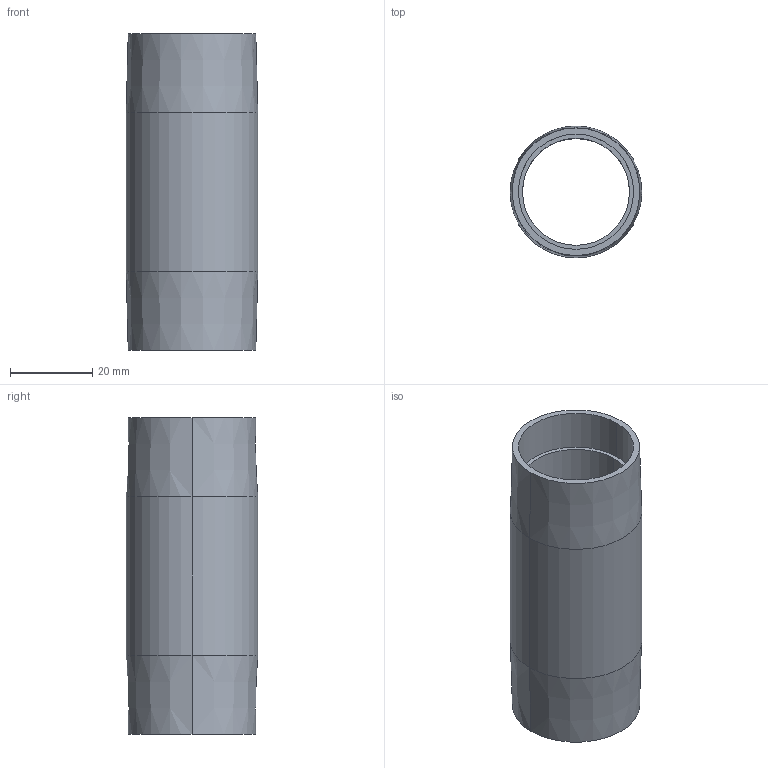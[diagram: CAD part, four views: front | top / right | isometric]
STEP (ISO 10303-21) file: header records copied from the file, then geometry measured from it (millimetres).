
FILE_DESCRIPTION (( 'STEP AP214' ), '1' );
FILE_NAME ('084.030.119.STEP', '2021-02-05T15:37:42', ( '' ), ( '' ), 'SwSTEP 2.0', 'SolidWorks 2018', '' );
FILE_SCHEMA (( 'AUTOMOTIVE_DESIGN' ));
Length unit declared in the file: millimetre
Products named in the file (1): 084.030.119
Bounding box: 32 x 32 x 77 mm (x, y, z)
Volume: 18391.5 mm3; surface area: 14544.5 mm2
Topology: 1 solids, 1 shells, 16 faces, 32 edges, 20 vertices
Faces by surface type: cylinder 8, cone 4, plane 4
Entity records: 462 total; most frequent: DIRECTION 86, CARTESIAN_POINT 69, ORIENTED_EDGE 64, AXIS2_PLACEMENT_3D 37, EDGE_CURVE 32, CIRCLE 20, VERTEX_POINT 20, EDGE_LOOP 20
